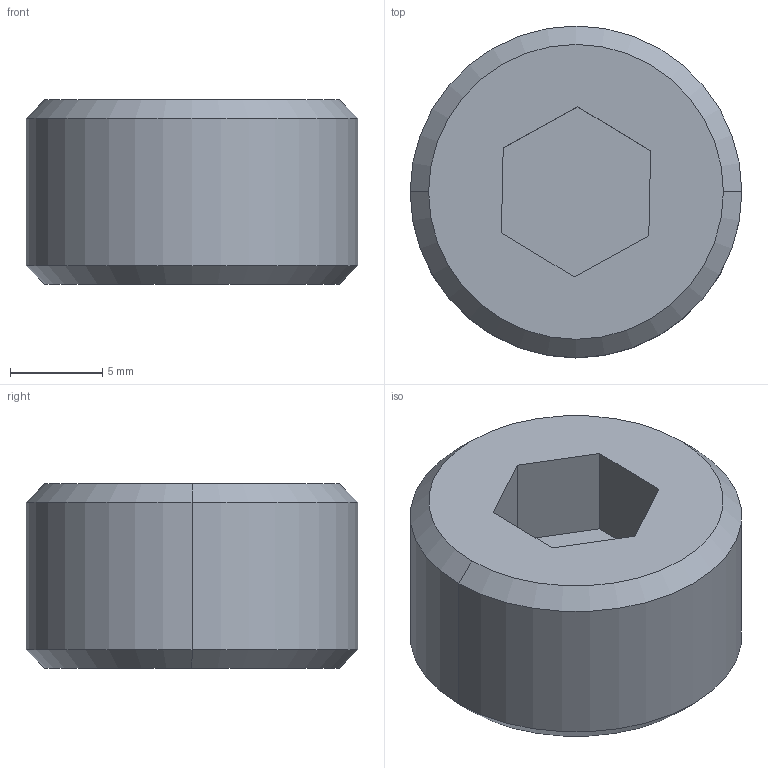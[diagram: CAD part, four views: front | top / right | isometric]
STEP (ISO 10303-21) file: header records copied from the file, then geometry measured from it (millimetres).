
FILE_DESCRIPTION (( 'STEP AP214' ), '1' );
FILE_NAME ('SE15-M18.STEP', '2020-11-02T15:31:49', ( 'August' ), ( '' ), 'SwSTEP 2.0', 'SolidWorks 2018', '' );
FILE_SCHEMA (( 'AUTOMOTIVE_DESIGN' ));
Length unit declared in the file: millimetre
Products named in the file (1): SE15-M18
Bounding box: 18 x 18 x 10 mm (x, y, z)
Volume: 2213.1 mm3; surface area: 1144.1 mm2
Topology: 1 solids, 1 shells, 15 faces, 32 edges, 20 vertices
Faces by surface type: plane 9, cone 4, cylinder 2
Entity records: 436 total; most frequent: DIRECTION 72, CARTESIAN_POINT 68, ORIENTED_EDGE 64, EDGE_CURVE 32, VECTOR 24, AXIS2_PLACEMENT_3D 24, LINE 24, VERTEX_POINT 20
